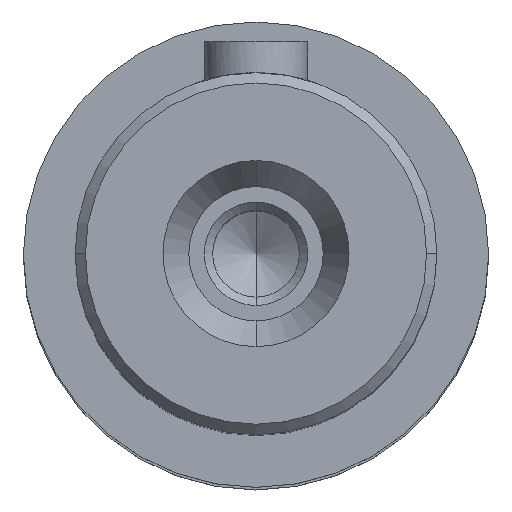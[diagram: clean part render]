
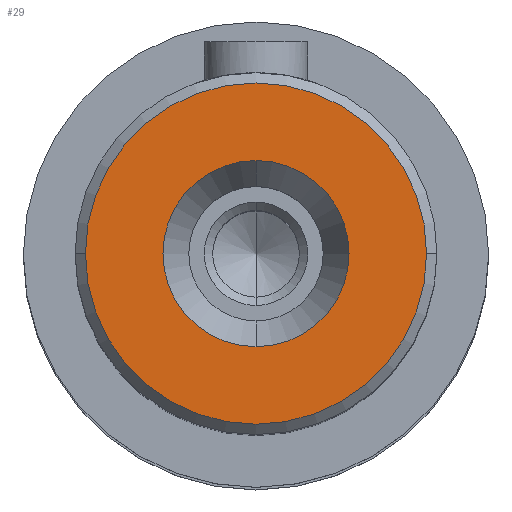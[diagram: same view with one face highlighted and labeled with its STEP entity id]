
A CAD part, top view. The second image highlights one B-rep face of the part: STEP entity #29.
In plain terms, the highlighted planar face has unit normal (0, 0, 1) as drawn and (1, 0, 0) by its records, which use the part's own axes.
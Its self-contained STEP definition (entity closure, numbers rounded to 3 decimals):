
#29=ADVANCED_FACE('',(#70,#57),#498,.T.);
#57=FACE_BOUND('',#110,.T.);
#70=FACE_OUTER_BOUND('',#109,.T.);
#109=EDGE_LOOP('',(#180,#181));
#110=EDGE_LOOP('',(#182,#183));
#180=ORIENTED_EDGE('',*,*,#288,.F.);
#181=ORIENTED_EDGE('',*,*,#291,.F.);
#182=ORIENTED_EDGE('',*,*,#337,.F.);
#183=ORIENTED_EDGE('',*,*,#310,.F.);
#288=EDGE_CURVE('',#456,#459,#347,.T.);
#291=EDGE_CURVE('',#459,#456,#349,.T.);
#310=EDGE_CURVE('',#458,#484,#358,.T.);
#337=EDGE_CURVE('',#484,#458,#373,.T.);
#347=TRIMMED_CURVE($,#383,(#1077),(#1078),.T.,.CARTESIAN.);
#349=TRIMMED_CURVE($,#385,(#1085),(#1086),.T.,.CARTESIAN.);
#358=TRIMMED_CURVE($,#394,(#1132),(#1133),.T.,.CARTESIAN.);
#373=TRIMMED_CURVE($,#409,(#1201),(#1202),.T.,.CARTESIAN.);
#383=CIRCLE('',#731,16.5);
#385=CIRCLE('',#733,16.5);
#394=CIRCLE('',#742,9.);
#409=CIRCLE('',#757,9.);
#456=VERTEX_POINT('',#988);
#458=VERTEX_POINT('',#990);
#459=VERTEX_POINT('',#991);
#484=VERTEX_POINT('',#1016);
#498=PLANE('',#706);
#706=AXIS2_PLACEMENT_3D('',#888,#774,$);
#731=AXIS2_PLACEMENT_3D($,#1076,#808,#809);
#733=AXIS2_PLACEMENT_3D($,#1084,#812,#813);
#742=AXIS2_PLACEMENT_3D($,#1131,#830,#831);
#757=AXIS2_PLACEMENT_3D($,#1200,#860,#861);
#774=DIRECTION('',(1.,0.,0.));
#808=DIRECTION('',(-1.,0.,0.));
#809=DIRECTION('',(0.,0.,1.));
#812=DIRECTION('',(-1.,0.,0.));
#813=DIRECTION('',(0.,0.,-1.));
#830=DIRECTION('',(1.,0.,0.));
#831=DIRECTION('',(0.,1.,0.));
#860=DIRECTION('',(1.,0.,0.));
#861=DIRECTION('',(0.,-1.,0.));
#888=CARTESIAN_POINT('',(132.,-19.86,-19.86));
#988=CARTESIAN_POINT('',(132.,0.,16.5));
#990=CARTESIAN_POINT('',(132.,9.,0.));
#991=CARTESIAN_POINT('',(132.,0.,-16.5));
#1016=CARTESIAN_POINT('',(132.,-9.,0.));
#1076=CARTESIAN_POINT('',(132.,0.,0.));
#1077=CARTESIAN_POINT('',(132.,0.,16.5));
#1078=CARTESIAN_POINT('',(132.,0.,-16.5));
#1084=CARTESIAN_POINT('',(132.,0.,0.));
#1085=CARTESIAN_POINT('',(132.,0.,-16.5));
#1086=CARTESIAN_POINT('',(132.,0.,16.5));
#1131=CARTESIAN_POINT('',(132.,0.,0.));
#1132=CARTESIAN_POINT('',(132.,9.,0.));
#1133=CARTESIAN_POINT('',(132.,-9.,0.));
#1200=CARTESIAN_POINT('',(132.,0.,0.));
#1201=CARTESIAN_POINT('',(132.,-9.,0.));
#1202=CARTESIAN_POINT('',(132.,9.,0.));
